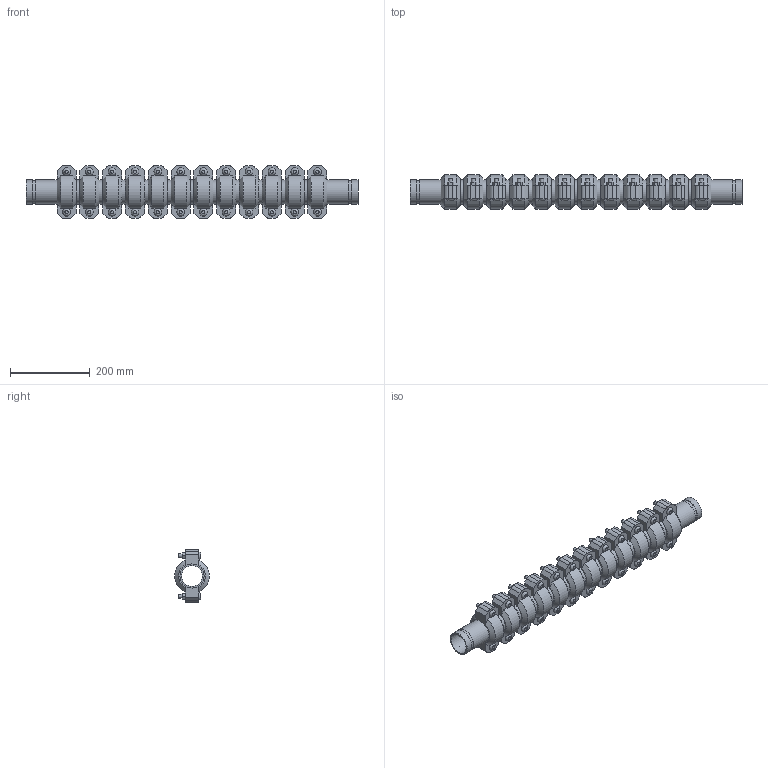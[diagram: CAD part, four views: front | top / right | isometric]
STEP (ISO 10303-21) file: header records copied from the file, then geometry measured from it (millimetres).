
FILE_DESCRIPTION(/* description */ ('VIC SS EXPANSION JOINT 12 COUPLINGS COMPRESSED STYLE 155P (OGS) (POTABLE WATER) ','CAx-IF Rec.Pracs.---Representation and Presentation of Product Manufacturing Information (PMI)---4.0---2014-10-13'),/* implementation_level */ '2;1');
FILE_NAME(/* name */ 'C:\Users\kkamble\AppData\Roaming\Autodesk\ApplicationPlugins\Victaulic.Temp\A528\Victaulic_SS_Expansion Joint_Compressed_12 Couplings_Style 155P (OGS)-Potable Water_12 Coup_Comp_2 (50).stp',/* time_stamp */ '2021-07-16T17:08:01+06:00',/* author */ ('kkamble'),/* organization */ ('Victaulic'),/* preprocessor_version */ 'ST-DEVELOPER v17.2',/* originating_system */ 'Autodesk Inventor 2019',/* authorisation */ '');
FILE_SCHEMA (('AP242_MANAGED_MODEL_BASED_3D_ENGINEERING_MIM_LF { 1 0 10303 442 1 1 4 }'));
Length unit declared in the file: inch
Products named in the file (4): 155P-02.0; Nipple-02.0; Nipple-02.0_1; 075-02.0
Assembly tree (25 placements, depth 2):
  155P-02.0
    Nipple-02.0  x2
    Nipple-02.0_1  x11
    075-02.0  x12
Bounding box: 831.85 x 87.12 x 132.59 mm (x, y, z)
Volume: 2915982.1 mm3; surface area: 790729.8 mm2
Topology: 25 solids, 49 shells, 792 faces, 1914 edges, 1344 vertices
Faces by surface type: plane 486, cylinder 234, cone 48, bspline 24
Full cylindrical faces by diameter (mm): 9.525 x48, 11.43 x24, 52.502 x13, 57.15 x26, 60.325 x51
Entity records: 2801 total; most frequent: CARTESIAN_POINT 495, DIRECTION 475, ORIENTED_EDGE 374, AXIS2_PLACEMENT_3D 192, EDGE_CURVE 187, VERTEX_POINT 134, EDGE_LOOP 101, LINE 91
